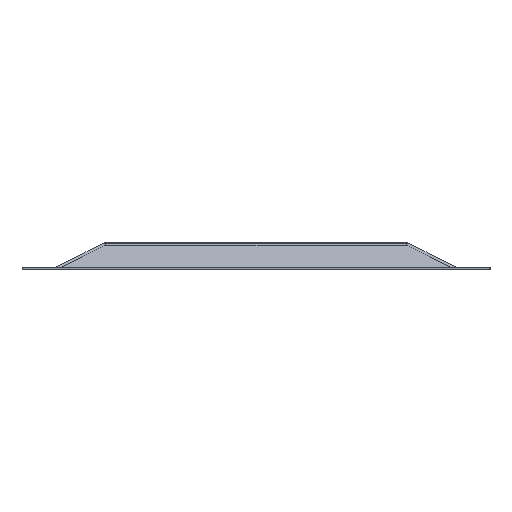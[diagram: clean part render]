
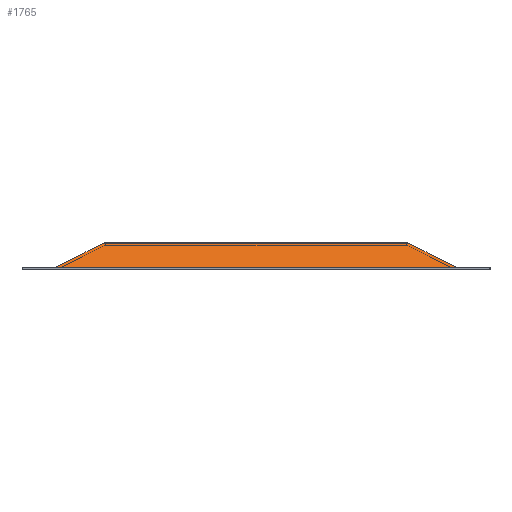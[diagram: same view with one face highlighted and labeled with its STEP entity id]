
A CAD part, left-side view. The second image highlights one B-rep face of the part: STEP entity #1765.
In plain terms, the highlighted planar face has unit normal (-0.739, 0, 0.674).
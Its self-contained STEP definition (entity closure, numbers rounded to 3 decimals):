
#125=FACE_OUTER_BOUND('',#219,.T.);
#219=EDGE_LOOP('',(#1403,#1404,#1405,#1406));
#385=LINE('',#2698,#601);
#393=LINE('',#2714,#609);
#394=LINE('',#2716,#610);
#395=LINE('',#2717,#611);
#601=VECTOR('',#2238,10.);
#609=VECTOR('',#2248,10.);
#610=VECTOR('',#2249,10.);
#611=VECTOR('',#2250,10.);
#795=VERTEX_POINT('',#2696);
#796=VERTEX_POINT('',#2697);
#803=VERTEX_POINT('',#2713);
#804=VERTEX_POINT('',#2715);
#1019=EDGE_CURVE('',#795,#796,#385,.T.);
#1027=EDGE_CURVE('',#803,#796,#393,.T.);
#1028=EDGE_CURVE('',#795,#804,#394,.T.);
#1029=EDGE_CURVE('',#803,#804,#395,.T.);
#1403=ORIENTED_EDGE('',*,*,#1027,.T.);
#1404=ORIENTED_EDGE('',*,*,#1019,.F.);
#1405=ORIENTED_EDGE('',*,*,#1028,.T.);
#1406=ORIENTED_EDGE('',*,*,#1029,.F.);
#1675=PLANE('',#1916);
#1765=ADVANCED_FACE('',(#125),#1675,.T.);
#1916=AXIS2_PLACEMENT_3D('',#2712,#2246,#2247);
#2238=DIRECTION('',(0.,1.,0.));
#2246=DIRECTION('center_axis',(-0.739,0.,0.674));
#2247=DIRECTION('ref_axis',(0.674,0.,0.739));
#2248=DIRECTION('',(-0.378,0.828,-0.414));
#2249=DIRECTION('',(0.378,0.828,0.414));
#2250=DIRECTION('',(0.,-1.,0.));
#2696=CARTESIAN_POINT('',(-227.5,-120.,0.75));
#2697=CARTESIAN_POINT('',(-227.5,120.,0.75));
#2698=CARTESIAN_POINT('',(-227.5,0.,0.75));
#2712=CARTESIAN_POINT('Origin',(-227.5,0.,0.75));
#2713=CARTESIAN_POINT('',(-214.717,91.958,14.771));
#2714=CARTESIAN_POINT('',(-201.806,63.635,28.933));
#2715=CARTESIAN_POINT('',(-214.717,-91.958,14.771));
#2716=CARTESIAN_POINT('',(-201.806,-63.635,28.933));
#2717=CARTESIAN_POINT('',(-214.717,0.,14.771));
